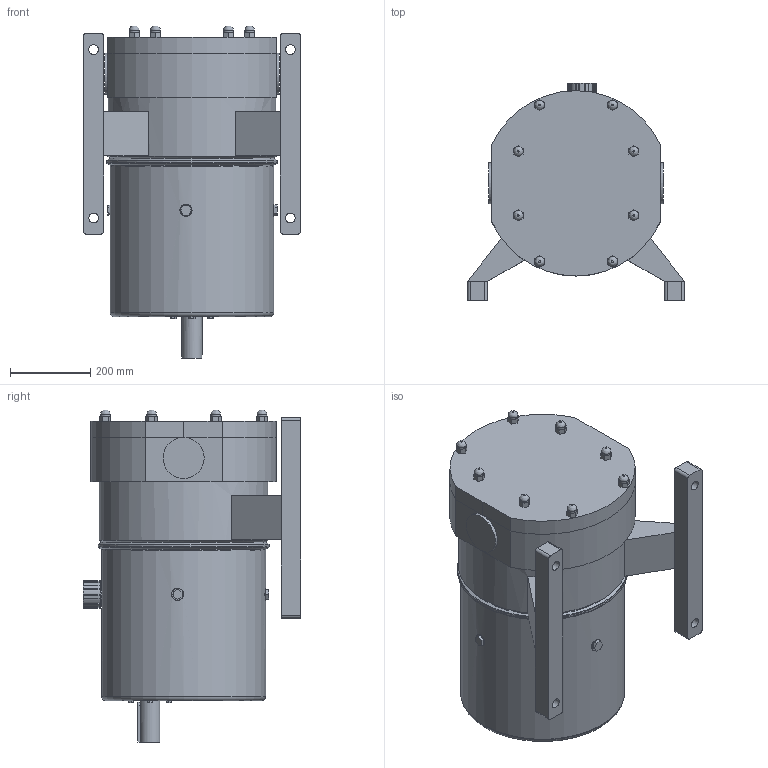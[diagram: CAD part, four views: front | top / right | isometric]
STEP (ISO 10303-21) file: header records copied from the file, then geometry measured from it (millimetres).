
FILE_DESCRIPTION(/* description */ (''),/* implementation_level */ '2;1');
FILE_NAME(/* name */ 'T:\_Engineering\Read Only\Products\_DOCUMENTATION\APV PUMPS\DRAWINGS\3D\DW\NEW_3D\STEP\DW6_308_15_shaft_top.stp',/* time_stamp */ '2018-10-15T14:07:38+02:00',/* author */ ('R46TAF'),/* organization */ (''),/* preprocessor_version */ 'ST-DEVELOPER v17',/* originating_system */ 'Autodesk Inventor 2018',/* authorisation */ '');
FILE_SCHEMA (('AUTOMOTIVE_DESIGN { 1 0 10303 214 3 1 1 }'));
Length unit declared in the file: millimetre
Products named in the file (1): DW6_308_15_shaft_top
Bounding box: 540.6 x 542.3 x 827.8 mm (x, y, z)
Volume: 52784017.9 mm3; surface area: 2434414.1 mm2
Topology: 1 solids, 3 shells, 320 faces, 796 edges, 505 vertices
Faces by surface type: plane 246, cylinder 51, bspline 12, cone 7, torus 4
Full cylindrical faces by diameter (mm): 24 x12, 30 x4, 42 x1, 50 x1, 90 x1, 102.5 x2, 110 x1, 405.6 x2, 408.6 x2, 420 x2, 426 x1
Entity records: 10056 total; most frequent: CARTESIAN_POINT 2100, DIRECTION 1635, ORIENTED_EDGE 1610, EDGE_CURVE 805, LINE 575, VECTOR 575, AXIS2_PLACEMENT_3D 530, VERTEX_POINT 513
